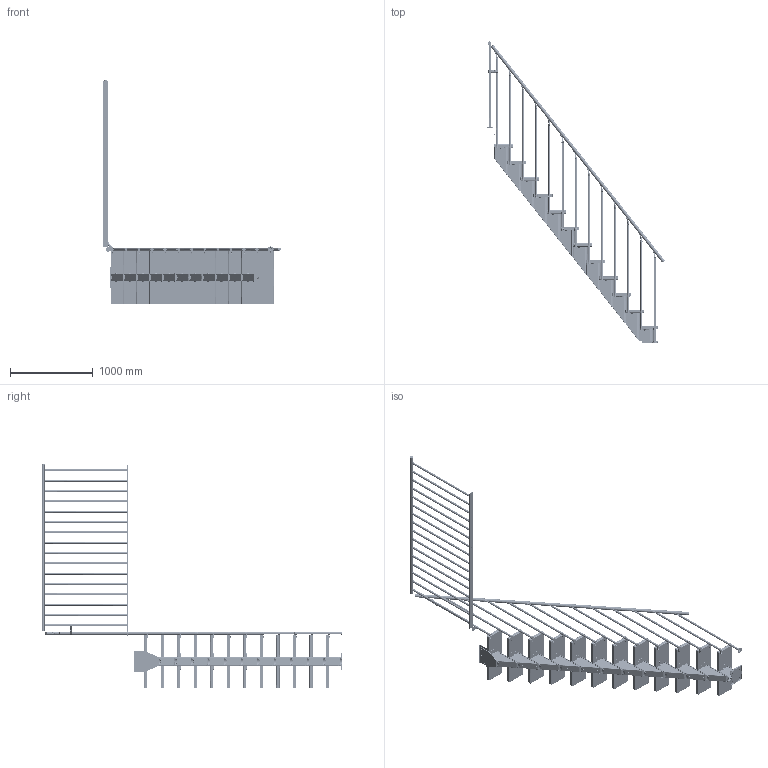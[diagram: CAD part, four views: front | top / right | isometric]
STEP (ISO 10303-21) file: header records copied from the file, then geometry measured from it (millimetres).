
FILE_DESCRIPTION (( 'STEP AP214' ), '1' );
FILE_NAME ('5459 - FRANKFURT ligeløb CLASSIC gelænder.STEP', '2021-09-03T09:26:53', ( '' ), ( '' ), 'SwSTEP 2.0', 'SolidWorks 2019', '' );
FILE_SCHEMA (( 'AUTOMOTIVE_DESIGN' ));
Length unit declared in the file: millimetre
Products named in the file (134): K2-1077195_K2-1077197; K3-06027; M2-1078905; K1-1077209; K2-1077420_K2-1077422; K1-34011; K2-1077170_K2-1077172; K1-1077411; K1-1077610_K1-1077612; K2-1077025_K2-1077027; K1-40561; K2-1077425_K2-1077427; K1-08310-02; K2-1077610_K2-1077612; K3-03008_M8-ISO4034_Simpel; K2-1077430_K2-1077432; K1-01040; K1-40562_Default<As Machined>; H2-20505; K2-1077675-1_K1-1077677; K3-06130; 1078905; M2-1078301; K3-04053_K3-04053; K1-1077677-1; K1-1077002; K1-34020___; K1-1077675; K1-08310-01; K1-1077045_K1-1077047; K1-40560; K1-1077170_K1-1077172; 1077480-01_03; K2-1077155_K2-1077157; K3-08002; K1-34010; K1-1077165_K1-1077167; K1-1077208; K1-1077676; K1-1077650_K1-1077652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
Assembly tree (388 placements, depth 5):
  K3-08002
  5459 - FRANKFURT ligeløb CLASSIC gelænder
    5066701_03
      1077480-01_03
        K2-1077420_K2-1077422
          K1-34031
          K1-34030
          K1-1077002
        K2-1077425_K2-1077427
          K1-34031
          K1-34030
        K2-1077425_K2-1077427
          K1-34031
          K1-34030
        K2-1077425_K2-1077427
          K1-34031
          K1-34030
        K2-1077425_K2-1077427
          K1-34031
          K1-34030
        K2-1077425_K2-1077427
          K1-34031
          K1-34030
        K2-1077425_K2-1077427
          K1-34031
          K1-34030
        K2-1077425_K2-1077427
          K1-34031
          K1-34030
        K2-1077425_K2-1077427
          K1-34031
          K1-34030
        K2-1077425_K2-1077427
          K1-34031
          K1-34030
        K2-1077425_K2-1077427
          K1-34031
          K1-34030
        K2-1077430_K2-1077432
          K1-34021
          K1-34020___
          K1-1077411
        K2-1077440_K2-1077442
          K1-34010
          K1-34011
        K1-1077400_K1-1077402
        K1-1077070_K1-1077072
        H2-20505  x11
        H2-20506  x11
        R1-63500_R1-63500  x11
        K3-04053_K3-04053  x12
        K3-03021_ISO4032
      M2-1078300
      M2-1078301  x11
      K2-1077030_K2-1077032
        K1-40562_Default<As Machined>
        K1-40560
      K2-1077025_K2-1077027
        K1-40560
        K1-40561
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Bounding box: 2149.51 x 3642.16 x 2720 mm (x, y, z)
Volume: 87670088.5 mm3; surface area: 14491933.7 mm2
Topology: 328 solids, 328 shells, 9569 faces, 22377 edges, 13459 vertices
Faces by surface type: plane 3553, cylinder 3251, cone 1074, torus 938, bspline 637, sphere 116
Entity records: 77944 total; most frequent: CARTESIAN_POINT 24891, DIRECTION 10768, ORIENTED_EDGE 9502, EDGE_CURVE 4751, AXIS2_PLACEMENT_3D 4355, VERTEX_POINT 2958, EDGE_LOOP 2199, VECTOR 2058
